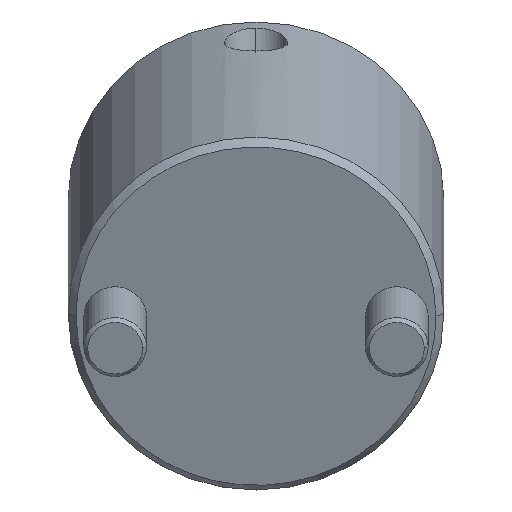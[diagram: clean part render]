
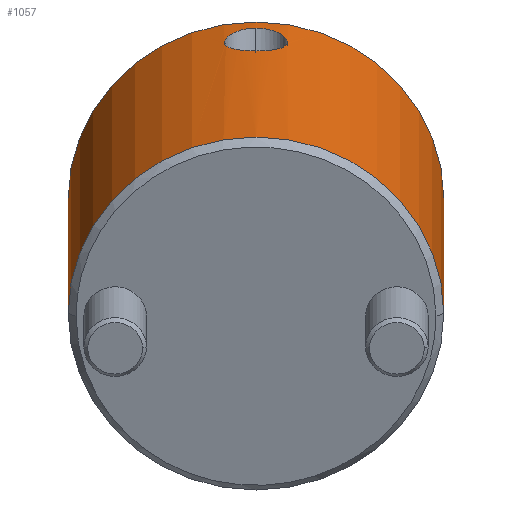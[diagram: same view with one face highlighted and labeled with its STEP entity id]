
A CAD part, front view. The second image highlights one B-rep face of the part: STEP entity #1057.
In plain terms, the highlighted cylindrical face has radius 24 mm (diameter 48 mm), a partial arc.
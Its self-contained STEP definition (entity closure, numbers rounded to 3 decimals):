
#808=CARTESIAN_POINT('Vertex',(0.,24.,1.)) ;
#811=CARTESIAN_POINT('Axis2P3D Location',(0.,0.,1.)) ;
#815=CARTESIAN_POINT('Vertex',(0.,-24.,1.)) ;
#967=CARTESIAN_POINT('Axis2P3D Location',(0.,0.,-2.25)) ;
#972=CARTESIAN_POINT('Line Origine',(0.,24.,-2.25)) ;
#976=CARTESIAN_POINT('Vertex',(0.,24.,44.)) ;
#979=CARTESIAN_POINT('Axis2P3D Location',(0.,0.,44.)) ;
#983=CARTESIAN_POINT('Vertex',(0.,-24.,44.)) ;
#986=CARTESIAN_POINT('Line Origine',(0.,-24.,-2.25)) ;
#998=CARTESIAN_POINT('Control Point',(24.,0.,41.721)) ;
#999=CARTESIAN_POINT('Control Point',(24.,0.376,41.721)) ;
#1000=CARTESIAN_POINT('Control Point',(23.993,0.745,41.672)) ;
#1001=CARTESIAN_POINT('Control Point',(23.978,1.106,41.575)) ;
#1002=CARTESIAN_POINT('Control Point',(23.938,1.806,41.29)) ;
#1003=CARTESIAN_POINT('Control Point',(23.88,2.43,40.838)) ;
#1004=CARTESIAN_POINT('Control Point',(23.847,2.726,40.563)) ;
#1005=CARTESIAN_POINT('Control Point',(23.797,3.127,40.093)) ;
#1006=CARTESIAN_POINT('Control Point',(23.752,3.442,39.557)) ;
#1007=CARTESIAN_POINT('Control Point',(23.738,3.538,39.372)) ;
#1008=CARTESIAN_POINT('Control Point',(23.699,3.792,38.8)) ;
#1009=CARTESIAN_POINT('Control Point',(23.673,3.949,38.191)) ;
#1010=CARTESIAN_POINT('Control Point',(23.663,4.009,37.776)) ;
#1011=CARTESIAN_POINT('Control Point',(23.659,4.032,36.837)) ;
#1012=CARTESIAN_POINT('Control Point',(23.695,3.819,35.939)) ;
#1013=CARTESIAN_POINT('Control Point',(23.725,3.633,35.475)) ;
#1014=CARTESIAN_POINT('Control Point',(23.793,3.181,34.705)) ;
#1015=CARTESIAN_POINT('Control Point',(23.868,2.542,34.09)) ;
#1016=CARTESIAN_POINT('Control Point',(23.9,2.227,33.856)) ;
#1017=CARTESIAN_POINT('Control Point',(23.951,1.613,33.506)) ;
#1018=CARTESIAN_POINT('Control Point',(23.985,0.939,33.3)) ;
#1019=CARTESIAN_POINT('Control Point',(23.995,0.629,33.238)) ;
#1020=CARTESIAN_POINT('Control Point',(24.,0.316,33.207)) ;
#1021=CARTESIAN_POINT('Control Point',(24.,0.,33.207)) ;
#1022=CARTESIAN_POINT('Vertex',(24.,0.,41.721)) ;
#1024=CARTESIAN_POINT('Vertex',(24.,0.,33.207)) ;
#1028=CARTESIAN_POINT('Control Point',(24.,0.,33.207)) ;
#1029=CARTESIAN_POINT('Control Point',(24.,-0.488,33.207)) ;
#1030=CARTESIAN_POINT('Control Point',(23.988,-0.968,33.281)) ;
#1031=CARTESIAN_POINT('Control Point',(23.963,-1.44,33.429)) ;
#1032=CARTESIAN_POINT('Control Point',(23.909,-2.144,33.776)) ;
#1033=CARTESIAN_POINT('Control Point',(23.845,-2.739,34.283)) ;
#1034=CARTESIAN_POINT('Control Point',(23.82,-2.944,34.493)) ;
#1035=CARTESIAN_POINT('Control Point',(23.755,-3.441,35.105)) ;
#1036=CARTESIAN_POINT('Control Point',(23.702,-3.779,35.825)) ;
#1037=CARTESIAN_POINT('Control Point',(23.677,-3.924,36.308)) ;
#1038=CARTESIAN_POINT('Control Point',(23.659,-4.029,37.024)) ;
#1039=CARTESIAN_POINT('Control Point',(23.666,-3.989,37.747)) ;
#1040=CARTESIAN_POINT('Control Point',(23.67,-3.966,37.955)) ;
#1041=CARTESIAN_POINT('Control Point',(23.685,-3.879,38.47)) ;
#1042=CARTESIAN_POINT('Control Point',(23.71,-3.72,38.967)) ;
#1043=CARTESIAN_POINT('Control Point',(23.729,-3.601,39.257)) ;
#1044=CARTESIAN_POINT('Control Point',(23.765,-3.361,39.724)) ;
#1045=CARTESIAN_POINT('Control Point',(23.805,-3.059,40.147)) ;
#1046=CARTESIAN_POINT('Control Point',(23.821,-2.929,40.309)) ;
#1047=CARTESIAN_POINT('Control Point',(23.886,-2.382,40.913)) ;
#1048=CARTESIAN_POINT('Control Point',(23.947,-1.721,41.359)) ;
#1049=CARTESIAN_POINT('Control Point',(23.981,-1.177,41.597)) ;
#1050=CARTESIAN_POINT('Control Point',(24.,-0.597,41.721)) ;
#1051=CARTESIAN_POINT('Control Point',(24.,0.,41.721)) ;
#812=DIRECTION('Axis2P3D Direction',(0.,0.,1.)) ;
#968=DIRECTION('Axis2P3D Direction',(0.,-0.,1.)) ;
#969=DIRECTION('Axis2P3D XDirection',(0.,-1.,0.)) ;
#973=DIRECTION('Vector Direction',(0.,0.,1.)) ;
#980=DIRECTION('Axis2P3D Direction',(0.,-0.,1.)) ;
#987=DIRECTION('Vector Direction',(0.,0.,1.)) ;
#813=AXIS2_PLACEMENT_3D('Circle Axis2P3D',#811,#812,$) ;
#970=AXIS2_PLACEMENT_3D('Cylinder Axis2P3D',#967,#968,#969) ;
#981=AXIS2_PLACEMENT_3D('Circle Axis2P3D',#979,#980,$) ;
#992=ORIENTED_EDGE('',*,*,#978,.F.) ;
#993=ORIENTED_EDGE('',*,*,#985,.T.) ;
#994=ORIENTED_EDGE('',*,*,#990,.T.) ;
#995=ORIENTED_EDGE('',*,*,#817,.F.) ;
#1054=ORIENTED_EDGE('',*,*,#1026,.T.) ;
#1055=ORIENTED_EDGE('',*,*,#1052,.T.) ;
#1056=FACE_BOUND('',#1053,.T.) ;
#974=VECTOR('Line Direction',#973,1.) ;
#988=VECTOR('Line Direction',#987,1.) ;
#1057=ADVANCED_FACE('MANIFOLD_SOLID_BREP #1138',(#996,#1056),#971,.T.) ;
#997=B_SPLINE_CURVE_WITH_KNOTS('',5,(#998,#999,#1000,#1001,#1002,#1003,#1004,#1005,#1006,#1007,#1008,#1009,#1010,#1011,#1012,#1013,#1014,#1015,#1016,#1017,#1018,#1019,#1020,#1021),.UNSPECIFIED.,.F.,.U.,(6,3,3,3,3,3,3,6),(0.,2.693,5.516,6.952,9.815,13.339,16.131,18.389),.UNSPECIFIED.) ;
#1027=B_SPLINE_CURVE_WITH_KNOTS('',5,(#1028,#1029,#1030,#1031,#1032,#1033,#1034,#1035,#1036,#1037,#1038,#1039,#1040,#1041,#1042,#1043,#1044,#1045,#1046,#1047,#1048,#1049,#1050,#1051),.UNSPECIFIED.,.F.,.U.,(6,3,3,3,3,3,3,6),(0.,3.488,5.589,9.113,10.538,12.7,14.12,18.39),.UNSPECIFIED.) ;
#814=CIRCLE('generated circle',#813,24.) ;
#982=CIRCLE('generated circle',#981,24.) ;
#971=CYLINDRICAL_SURFACE('generated cylinder',#970,24.) ;
#817=EDGE_CURVE('',#809,#816,#814,.F.) ;
#978=EDGE_CURVE('',#977,#809,#975,.F.) ;
#985=EDGE_CURVE('',#977,#984,#982,.F.) ;
#990=EDGE_CURVE('',#984,#816,#989,.F.) ;
#1026=EDGE_CURVE('',#1023,#1025,#997,.T.) ;
#1052=EDGE_CURVE('',#1025,#1023,#1027,.T.) ;
#991=EDGE_LOOP('',(#992,#993,#994,#995)) ;
#1053=EDGE_LOOP('',(#1054,#1055)) ;
#996=FACE_OUTER_BOUND('',#991,.T.) ;
#975=LINE('Line',#972,#974) ;
#989=LINE('Line',#986,#988) ;
#809=VERTEX_POINT('',#808) ;
#816=VERTEX_POINT('',#815) ;
#977=VERTEX_POINT('',#976) ;
#984=VERTEX_POINT('',#983) ;
#1023=VERTEX_POINT('',#1022) ;
#1025=VERTEX_POINT('',#1024) ;
